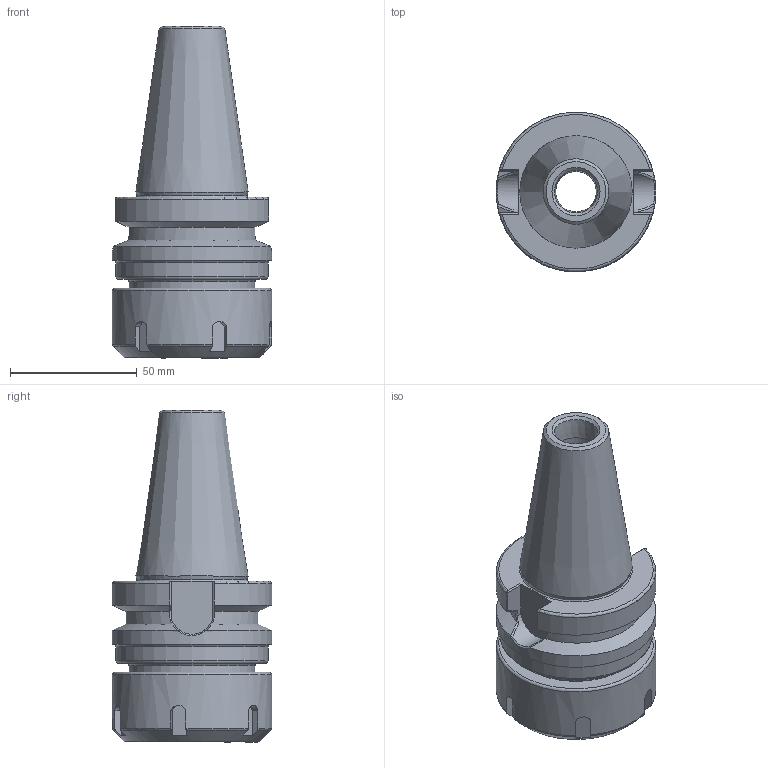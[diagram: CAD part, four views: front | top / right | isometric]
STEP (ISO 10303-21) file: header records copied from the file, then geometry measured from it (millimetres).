
FILE_DESCRIPTION(/* description */ (''),/* implementation_level */ '2;1');
FILE_NAME(/* name */ 'Z:\Проектный отдел\Алена\BT40-ER40-70L\BT40-ER40-70L.stp',/* time_stamp */ '2024-01-26T09:53:54+03:00',/* author */ ('User'),/* organization */ (''),/* preprocessor_version */ 'ST-DEVELOPER v18',/* originating_system */ 'Autodesk Inventor 2020',/* authorisation */ '');
FILE_SCHEMA (('AUTOMOTIVE_DESIGN { 1 0 10303 214 3 1 1 }'));
Length unit declared in the file: millimetre
Products named in the file (3): BT40-ER40-70L; Крышка; BT40-ER40-70L_1
Assembly tree (2 placements, depth 2):
  BT40-ER40-70L
    Крышка
    BT40-ER40-70L_1
Bounding box: 63 x 63 x 131 mm (x, y, z)
Volume: 175733.2 mm3; surface area: 43998.8 mm2
Topology: 2 solids, 2 shells, 121 faces, 355 edges, 243 vertices
Faces by surface type: plane 51, bspline 22, cylinder 18, torus 17, cone 13
Full cylindrical faces by diameter (mm): 16 x1, 49 x1, 49.7 x1, 60 x1, 63 x2
Entity records: 5137 total; most frequent: CARTESIAN_POINT 1935, ORIENTED_EDGE 710, DIRECTION 551, EDGE_CURVE 355, VERTEX_POINT 243, AXIS2_PLACEMENT_3D 216, EDGE_LOOP 130, FACE_OUTER_BOUND 121
